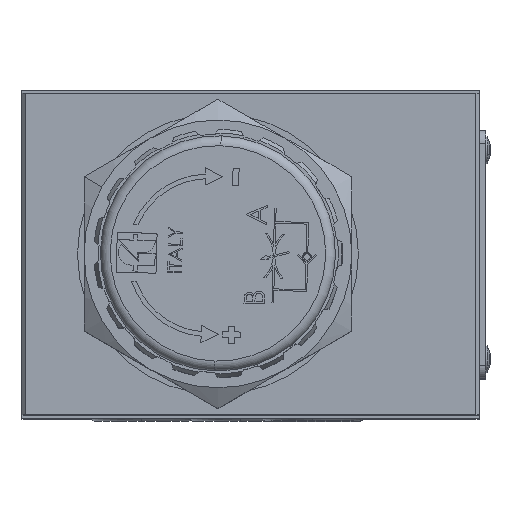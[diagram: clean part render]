
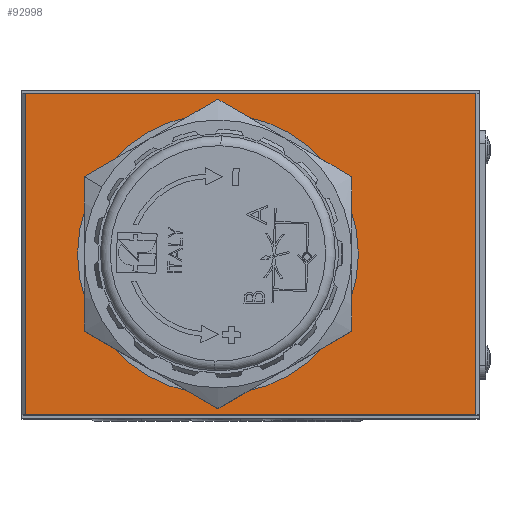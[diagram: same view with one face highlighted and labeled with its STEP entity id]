
A CAD part, top view. The second image highlights one B-rep face of the part: STEP entity #92998.
In plain terms, the highlighted planar face has unit normal (0, 0, 1) as drawn and (0, 0, -1) by its records, which use the part's own axes.
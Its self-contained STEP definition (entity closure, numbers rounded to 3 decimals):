
#1048 = VERTEX_POINT ( 'NONE', #105943 ) ;
#1258 = EDGE_CURVE ( 'NONE', #108702, #15122, #86347, .T. ) ;
#6670 = ORIENTED_EDGE ( 'NONE', *, *, #11842, .T. ) ;
#7405 = DIRECTION ( 'NONE',  ( 1., 0., 0. ) ) ;
#7769 = DIRECTION ( 'NONE',  ( 0., 0., 1. ) ) ;
#11842 = EDGE_CURVE ( 'NONE', #15122, #71494, #53364, .T. ) ;
#13314 = ORIENTED_EDGE ( 'NONE', *, *, #42549, .T. ) ;
#13413 = VECTOR ( 'NONE', #73860, 1000. ) ;
#13662 = AXIS2_PLACEMENT_3D ( 'NONE', #104135, #76941, #103060 ) ;
#15122 = VERTEX_POINT ( 'NONE', #93313 ) ;
#15911 = CARTESIAN_POINT ( 'NONE',  ( 34.5, -24.6, -55. ) ) ;
#19723 = FACE_BOUND ( 'NONE', #30406, .T. ) ;
#21332 = CARTESIAN_POINT ( 'NONE',  ( -34.5, -25.1, -55. ) ) ;
#25579 = ORIENTED_EDGE ( 'NONE', *, *, #71875, .T. ) ;
#26955 = CARTESIAN_POINT ( 'NONE',  ( 34.5, -25.1, -55. ) ) ;
#28376 = AXIS2_PLACEMENT_3D ( 'NONE', #44409, #34836, #87146 ) ;
#29998 = VECTOR ( 'NONE', #30125, 1000. ) ;
#30125 = DIRECTION ( 'NONE',  ( 0., 1., 0. ) ) ;
#30199 = CARTESIAN_POINT ( 'NONE',  ( 26.5, 0., -55. ) ) ;
#30406 = EDGE_LOOP ( 'NONE', ( #13314, #25579 ) ) ;
#32204 = ORIENTED_EDGE ( 'NONE', *, *, #1258, .T. ) ;
#32809 = CIRCLE ( 'NONE', #36209, 21.5 ) ;
#34836 = DIRECTION ( 'NONE',  ( 0., 0., 1. ) ) ;
#36209 = AXIS2_PLACEMENT_3D ( 'NONE', #59830, #7769, #7405 ) ;
#42549 = EDGE_CURVE ( 'NONE', #70185, #69397, #46628, .T. ) ;
#44409 = CARTESIAN_POINT ( 'NONE',  ( -35., -25.1, -55. ) ) ;
#46628 = CIRCLE ( 'NONE', #13662, 21.5 ) ;
#47160 = EDGE_LOOP ( 'NONE', ( #32204, #6670, #82327, #68941 ) ) ;
#53364 = LINE ( 'NONE', #21332, #29998 ) ;
#59830 = CARTESIAN_POINT ( 'NONE',  ( 5., 0., -55. ) ) ;
#59936 = LINE ( 'NONE', #109164, #13413 ) ;
#63568 = FACE_OUTER_BOUND ( 'NONE', #47160, .T. ) ;
#68941 = ORIENTED_EDGE ( 'NONE', *, *, #101837, .T. ) ;
#68968 = VECTOR ( 'NONE', #97614, 1000. ) ;
#69397 = VERTEX_POINT ( 'NONE', #30199 ) ;
#70185 = VERTEX_POINT ( 'NONE', #95350 ) ;
#70415 = LINE ( 'NONE', #26955, #68968 ) ;
#71494 = VERTEX_POINT ( 'NONE', #109101 ) ;
#71875 = EDGE_CURVE ( 'NONE', #69397, #70185, #32809, .T. ) ;
#72943 = DIRECTION ( 'NONE',  ( -1., 0., 0. ) ) ;
#73860 = DIRECTION ( 'NONE',  ( 1., 0., 0. ) ) ;
#76734 = VECTOR ( 'NONE', #72943, 1000. ) ;
#76793 = PLANE ( 'NONE',  #28376 ) ;
#76941 = DIRECTION ( 'NONE',  ( 0., 0., 1. ) ) ;
#82327 = ORIENTED_EDGE ( 'NONE', *, *, #91623, .T. ) ;
#86347 = LINE ( 'NONE', #109378, #76734 ) ;
#87146 = DIRECTION ( 'NONE',  ( 1., 0., 0. ) ) ;
#91623 = EDGE_CURVE ( 'NONE', #71494, #1048, #59936, .T. ) ;
#92998 = ADVANCED_FACE ( 'NONE', ( #19723, #63568 ), #76793, .F. ) ;
#93313 = CARTESIAN_POINT ( 'NONE',  ( -34.5, -24.6, -55. ) ) ;
#95350 = CARTESIAN_POINT ( 'NONE',  ( -16.5, 0., -55. ) ) ;
#97614 = DIRECTION ( 'NONE',  ( 0., -1., 0. ) ) ;
#101837 = EDGE_CURVE ( 'NONE', #1048, #108702, #70415, .T. ) ;
#103060 = DIRECTION ( 'NONE',  ( 1., 0., 0. ) ) ;
#104135 = CARTESIAN_POINT ( 'NONE',  ( 5., 0., -55. ) ) ;
#105943 = CARTESIAN_POINT ( 'NONE',  ( 34.5, 24.6, -55. ) ) ;
#108702 = VERTEX_POINT ( 'NONE', #15911 ) ;
#109101 = CARTESIAN_POINT ( 'NONE',  ( -34.5, 24.6, -55. ) ) ;
#109164 = CARTESIAN_POINT ( 'NONE',  ( -35., 24.6, -55. ) ) ;
#109378 = CARTESIAN_POINT ( 'NONE',  ( 35., -24.6, -55. ) ) ;
